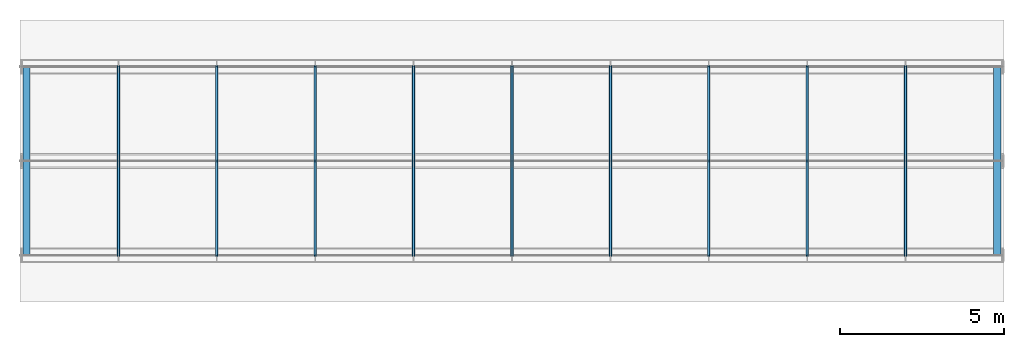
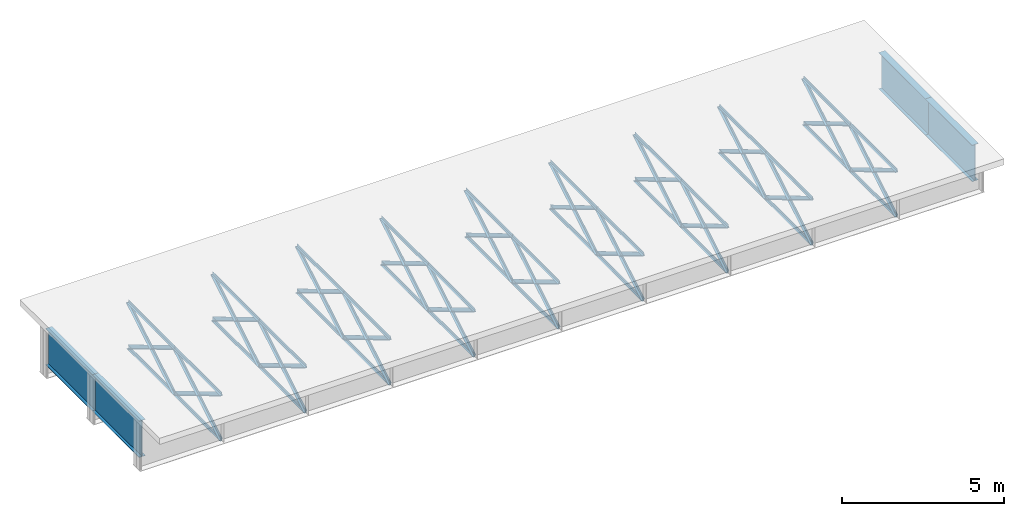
# One storey, part 1 of 10: 76 members.
"""IFC4 building model written with IfcOpenShell, lengths in metres."""

from ifc_helpers import new_model, si_unit, frame, origin, origin_with_axes, origin_2d_with_axis, place, context, subcontext, project, spatial, i_section, l_section, extrude, element, save


model = new_model("IFC4")

# Units and contexts
model_context = context("Model", 3, precision=1e-05, world=origin())
body_context = subcontext(model_context, "Body", "Model", "MODEL_VIEW")
ifc_project = project(units=[si_unit("LENGTHUNIT", "METRE"), si_unit("AREAUNIT", "SQUARE_METRE"), si_unit("VOLUMEUNIT", "CUBIC_METRE"), si_unit("PLANEANGLEUNIT", "RADIAN")], contexts=[model_context])

# Site, building, storey
site_placement = place(None, origin_with_axes())
site = spatial("IfcSite", under=ifc_project, at=site_placement, Name="Default Site")
building_placement = place(site_placement, origin_with_axes())
building = spatial("IfcBuilding", under=site, at=building_placement, Name="Bridge Structure")
storey_placement = place(building_placement, origin_with_axes())
storey = spatial("IfcBuildingStorey", under=building, at=storey_placement, Name="Superstructure")

# Members
for number, where, z_axis, x_axis, name in (
    (1, (0.2, -2.875, 0.1715), (0.0, 1.0, 0.0), (-1.0, 0.0, 0.0), "End Diaphragm"),
    (2, (0.2, 0.0, 0.1715), (0.0, 1.0, 0.0), (-1.0, 0.0, 0.0), "End Diaphragm"),
):
    element("IfcMember", number, at=place(storey_placement, frame(where, z_axis=z_axis, x_axis=x_axis)), inside=storey, Name=name, context=body_context, shape_type="SweptSolid", body=[
        extrude(i_section(OverallWidth=0.225, OverallDepth=1.372, WebThickness=0.016, FlangeThickness=0.012, at=origin_2d_with_axis()), origin_with_axes(), (0.0, 0.0, 1.0), 2.875),
    ])
for number, where, z_axis, x_axis, name in (
    (3, (3.0, -2.875, 0.8575), (0.0, 0.8588079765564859, -0.5122976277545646), (-1.0, 0.0, 0.0), "Diagonal Brace"),
    (4, (3.0, -2.875, -0.8575), (0.0, 0.8588079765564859, 0.5122976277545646), (-1.0, 0.0, 0.0), "Diagonal Brace"),
):
    element("IfcMember", number, at=place(storey_placement, frame(where, z_axis=z_axis, x_axis=x_axis)), inside=storey, Name=name, context=body_context, shape_type="SweptSolid", body=[
        extrude(l_section(Depth=0.128, Width=0.085, Thickness=0.008, at=origin_2d_with_axis()), origin_with_axes(), (0.0, 0.0, 1.0), 3.3476633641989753),
    ])
for number, where, z_axis, x_axis, name in (
    (5, (3.0, -2.875, -0.8575), (0.0, 1.0, 0.0), (-1.0, 0.0, 0.0), "Bottom Chord"),
    (6, (3.0, -2.875, 0.8575), (0.0, 1.0, 0.0), (-1.0, 0.0, 0.0), "Top Chord"),
):
    element("IfcMember", number, at=place(storey_placement, frame(where, z_axis=z_axis, x_axis=x_axis)), inside=storey, Name=name, context=body_context, shape_type="SweptSolid", body=[
        extrude(l_section(Depth=0.111, Width=0.068, Thickness=0.008, at=origin_2d_with_axis()), origin_with_axes(), (0.0, 0.0, 1.0), 2.875),
    ])
for number, where, z_axis, x_axis, name in (
    (7, (3.0, 0.0, 0.8575), (0.0, 0.8588079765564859, -0.5122976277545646), (-1.0, 0.0, 0.0), "Diagonal Brace"),
    (8, (3.0, 0.0, -0.8575), (0.0, 0.8588079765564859, 0.5122976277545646), (-1.0, 0.0, 0.0), "Diagonal Brace"),
):
    element("IfcMember", number, at=place(storey_placement, frame(where, z_axis=z_axis, x_axis=x_axis)), inside=storey, Name=name, context=body_context, shape_type="SweptSolid", body=[
        extrude(l_section(Depth=0.128, Width=0.085, Thickness=0.008, at=origin_2d_with_axis()), origin_with_axes(), (0.0, 0.0, 1.0), 3.3476633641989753),
    ])
for number, where, z_axis, x_axis, name in (
    (9, (3.0, 0.0, -0.8575), (0.0, 1.0, 0.0), (-1.0, 0.0, 0.0), "Bottom Chord"),
    (10, (3.0, 0.0, 0.8575), (0.0, 1.0, 0.0), (-1.0, 0.0, 0.0), "Top Chord"),
):
    element("IfcMember", number, at=place(storey_placement, frame(where, z_axis=z_axis, x_axis=x_axis)), inside=storey, Name=name, context=body_context, shape_type="SweptSolid", body=[
        extrude(l_section(Depth=0.111, Width=0.068, Thickness=0.008, at=origin_2d_with_axis()), origin_with_axes(), (0.0, 0.0, 1.0), 2.875),
    ])
for number, where, z_axis, x_axis, name in (
    (11, (6.0, -2.875, 0.8575), (0.0, 0.8588079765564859, -0.5122976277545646), (-1.0, 0.0, 0.0), "Diagonal Brace"),
    (12, (6.0, -2.875, -0.8575), (0.0, 0.8588079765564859, 0.5122976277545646), (-1.0, 0.0, 0.0), "Diagonal Brace"),
):
    element("IfcMember", number, at=place(storey_placement, frame(where, z_axis=z_axis, x_axis=x_axis)), inside=storey, Name=name, context=body_context, shape_type="SweptSolid", body=[
        extrude(l_section(Depth=0.128, Width=0.085, Thickness=0.008, at=origin_2d_with_axis()), origin_with_axes(), (0.0, 0.0, 1.0), 3.3476633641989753),
    ])
for number, where, z_axis, x_axis, name in (
    (13, (6.0, -2.875, -0.8575), (0.0, 1.0, 0.0), (-1.0, 0.0, 0.0), "Bottom Chord"),
    (14, (6.0, -2.875, 0.8575), (0.0, 1.0, 0.0), (-1.0, 0.0, 0.0), "Top Chord"),
):
    element("IfcMember", number, at=place(storey_placement, frame(where, z_axis=z_axis, x_axis=x_axis)), inside=storey, Name=name, context=body_context, shape_type="SweptSolid", body=[
        extrude(l_section(Depth=0.111, Width=0.068, Thickness=0.008, at=origin_2d_with_axis()), origin_with_axes(), (0.0, 0.0, 1.0), 2.875),
    ])
for number, where, z_axis, x_axis, name in (
    (15, (6.0, 0.0, 0.8575), (0.0, 0.8588079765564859, -0.5122976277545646), (-1.0, 0.0, 0.0), "Diagonal Brace"),
    (16, (6.0, 0.0, -0.8575), (0.0, 0.8588079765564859, 0.5122976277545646), (-1.0, 0.0, 0.0), "Diagonal Brace"),
):
    element("IfcMember", number, at=place(storey_placement, frame(where, z_axis=z_axis, x_axis=x_axis)), inside=storey, Name=name, context=body_context, shape_type="SweptSolid", body=[
        extrude(l_section(Depth=0.128, Width=0.085, Thickness=0.008, at=origin_2d_with_axis()), origin_with_axes(), (0.0, 0.0, 1.0), 3.3476633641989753),
    ])
for number, where, z_axis, x_axis, name in (
    (17, (6.0, 0.0, -0.8575), (0.0, 1.0, 0.0), (-1.0, 0.0, 0.0), "Bottom Chord"),
    (18, (6.0, 0.0, 0.8575), (0.0, 1.0, 0.0), (-1.0, 0.0, 0.0), "Top Chord"),
):
    element("IfcMember", number, at=place(storey_placement, frame(where, z_axis=z_axis, x_axis=x_axis)), inside=storey, Name=name, context=body_context, shape_type="SweptSolid", body=[
        extrude(l_section(Depth=0.111, Width=0.068, Thickness=0.008, at=origin_2d_with_axis()), origin_with_axes(), (0.0, 0.0, 1.0), 2.875),
    ])
for number, where, z_axis, x_axis, name in (
    (19, (9.0, -2.875, 0.8575), (0.0, 0.8588079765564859, -0.5122976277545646), (-1.0, 0.0, 0.0), "Diagonal Brace"),
    (20, (9.0, -2.875, -0.8575), (0.0, 0.8588079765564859, 0.5122976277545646), (-1.0, 0.0, 0.0), "Diagonal Brace"),
):
    element("IfcMember", number, at=place(storey_placement, frame(where, z_axis=z_axis, x_axis=x_axis)), inside=storey, Name=name, context=body_context, shape_type="SweptSolid", body=[
        extrude(l_section(Depth=0.128, Width=0.085, Thickness=0.008, at=origin_2d_with_axis()), origin_with_axes(), (0.0, 0.0, 1.0), 3.3476633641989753),
    ])
for number, where, z_axis, x_axis, name in (
    (21, (9.0, -2.875, -0.8575), (0.0, 1.0, 0.0), (-1.0, 0.0, 0.0), "Bottom Chord"),
    (22, (9.0, -2.875, 0.8575), (0.0, 1.0, 0.0), (-1.0, 0.0, 0.0), "Top Chord"),
):
    element("IfcMember", number, at=place(storey_placement, frame(where, z_axis=z_axis, x_axis=x_axis)), inside=storey, Name=name, context=body_context, shape_type="SweptSolid", body=[
        extrude(l_section(Depth=0.111, Width=0.068, Thickness=0.008, at=origin_2d_with_axis()), origin_with_axes(), (0.0, 0.0, 1.0), 2.875),
    ])
for number, where, z_axis, x_axis, name in (
    (23, (9.0, 0.0, 0.8575), (0.0, 0.8588079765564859, -0.5122976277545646), (-1.0, 0.0, 0.0), "Diagonal Brace"),
    (24, (9.0, 0.0, -0.8575), (0.0, 0.8588079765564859, 0.5122976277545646), (-1.0, 0.0, 0.0), "Diagonal Brace"),
):
    element("IfcMember", number, at=place(storey_placement, frame(where, z_axis=z_axis, x_axis=x_axis)), inside=storey, Name=name, context=body_context, shape_type="SweptSolid", body=[
        extrude(l_section(Depth=0.128, Width=0.085, Thickness=0.008, at=origin_2d_with_axis()), origin_with_axes(), (0.0, 0.0, 1.0), 3.3476633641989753),
    ])
for number, where, z_axis, x_axis, name in (
    (25, (9.0, 0.0, -0.8575), (0.0, 1.0, 0.0), (-1.0, 0.0, 0.0), "Bottom Chord"),
    (26, (9.0, 0.0, 0.8575), (0.0, 1.0, 0.0), (-1.0, 0.0, 0.0), "Top Chord"),
):
    element("IfcMember", number, at=place(storey_placement, frame(where, z_axis=z_axis, x_axis=x_axis)), inside=storey, Name=name, context=body_context, shape_type="SweptSolid", body=[
        extrude(l_section(Depth=0.111, Width=0.068, Thickness=0.008, at=origin_2d_with_axis()), origin_with_axes(), (0.0, 0.0, 1.0), 2.875),
    ])
for number, where, z_axis, x_axis, name in (
    (27, (12.0, -2.875, 0.8575), (0.0, 0.8588079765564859, -0.5122976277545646), (-1.0, 0.0, 0.0), "Diagonal Brace"),
    (28, (12.0, -2.875, -0.8575), (0.0, 0.8588079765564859, 0.5122976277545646), (-1.0, 0.0, 0.0), "Diagonal Brace"),
):
    element("IfcMember", number, at=place(storey_placement, frame(where, z_axis=z_axis, x_axis=x_axis)), inside=storey, Name=name, context=body_context, shape_type="SweptSolid", body=[
        extrude(l_section(Depth=0.128, Width=0.085, Thickness=0.008, at=origin_2d_with_axis()), origin_with_axes(), (0.0, 0.0, 1.0), 3.3476633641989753),
    ])
for number, where, z_axis, x_axis, name in (
    (29, (12.0, -2.875, -0.8575), (0.0, 1.0, 0.0), (-1.0, 0.0, 0.0), "Bottom Chord"),
    (30, (12.0, -2.875, 0.8575), (0.0, 1.0, 0.0), (-1.0, 0.0, 0.0), "Top Chord"),
):
    element("IfcMember", number, at=place(storey_placement, frame(where, z_axis=z_axis, x_axis=x_axis)), inside=storey, Name=name, context=body_context, shape_type="SweptSolid", body=[
        extrude(l_section(Depth=0.111, Width=0.068, Thickness=0.008, at=origin_2d_with_axis()), origin_with_axes(), (0.0, 0.0, 1.0), 2.875),
    ])
for number, where, z_axis, x_axis, name in (
    (31, (12.0, 0.0, 0.8575), (0.0, 0.8588079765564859, -0.5122976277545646), (-1.0, 0.0, 0.0), "Diagonal Brace"),
    (32, (12.0, 0.0, -0.8575), (0.0, 0.8588079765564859, 0.5122976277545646), (-1.0, 0.0, 0.0), "Diagonal Brace"),
):
    element("IfcMember", number, at=place(storey_placement, frame(where, z_axis=z_axis, x_axis=x_axis)), inside=storey, Name=name, context=body_context, shape_type="SweptSolid", body=[
        extrude(l_section(Depth=0.128, Width=0.085, Thickness=0.008, at=origin_2d_with_axis()), origin_with_axes(), (0.0, 0.0, 1.0), 3.3476633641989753),
    ])
for number, where, z_axis, x_axis, name in (
    (33, (12.0, 0.0, -0.8575), (0.0, 1.0, 0.0), (-1.0, 0.0, 0.0), "Bottom Chord"),
    (34, (12.0, 0.0, 0.8575), (0.0, 1.0, 0.0), (-1.0, 0.0, 0.0), "Top Chord"),
):
    element("IfcMember", number, at=place(storey_placement, frame(where, z_axis=z_axis, x_axis=x_axis)), inside=storey, Name=name, context=body_context, shape_type="SweptSolid", body=[
        extrude(l_section(Depth=0.111, Width=0.068, Thickness=0.008, at=origin_2d_with_axis()), origin_with_axes(), (0.0, 0.0, 1.0), 2.875),
    ])
for number, where, z_axis, x_axis, name in (
    (35, (15.0, -2.875, 0.8575), (0.0, 0.8588079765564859, -0.5122976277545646), (-1.0, 0.0, 0.0), "Diagonal Brace"),
    (36, (15.0, -2.875, -0.8575), (0.0, 0.8588079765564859, 0.5122976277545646), (-1.0, 0.0, 0.0), "Diagonal Brace"),
):
    element("IfcMember", number, at=place(storey_placement, frame(where, z_axis=z_axis, x_axis=x_axis)), inside=storey, Name=name, context=body_context, shape_type="SweptSolid", body=[
        extrude(l_section(Depth=0.128, Width=0.085, Thickness=0.008, at=origin_2d_with_axis()), origin_with_axes(), (0.0, 0.0, 1.0), 3.3476633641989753),
    ])
for number, where, z_axis, x_axis, name in (
    (37, (15.0, -2.875, -0.8575), (0.0, 1.0, 0.0), (-1.0, 0.0, 0.0), "Bottom Chord"),
    (38, (15.0, -2.875, 0.8575), (0.0, 1.0, 0.0), (-1.0, 0.0, 0.0), "Top Chord"),
):
    element("IfcMember", number, at=place(storey_placement, frame(where, z_axis=z_axis, x_axis=x_axis)), inside=storey, Name=name, context=body_context, shape_type="SweptSolid", body=[
        extrude(l_section(Depth=0.111, Width=0.068, Thickness=0.008, at=origin_2d_with_axis()), origin_with_axes(), (0.0, 0.0, 1.0), 2.875),
    ])
for number, where, z_axis, x_axis, name in (
    (39, (15.0, 0.0, 0.8575), (0.0, 0.8588079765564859, -0.5122976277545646), (-1.0, 0.0, 0.0), "Diagonal Brace"),
    (40, (15.0, 0.0, -0.8575), (0.0, 0.8588079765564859, 0.5122976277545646), (-1.0, 0.0, 0.0), "Diagonal Brace"),
):
    element("IfcMember", number, at=place(storey_placement, frame(where, z_axis=z_axis, x_axis=x_axis)), inside=storey, Name=name, context=body_context, shape_type="SweptSolid", body=[
        extrude(l_section(Depth=0.128, Width=0.085, Thickness=0.008, at=origin_2d_with_axis()), origin_with_axes(), (0.0, 0.0, 1.0), 3.3476633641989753),
    ])
for number, where, z_axis, x_axis, name in (
    (41, (15.0, 0.0, -0.8575), (0.0, 1.0, 0.0), (-1.0, 0.0, 0.0), "Bottom Chord"),
    (42, (15.0, 0.0, 0.8575), (0.0, 1.0, 0.0), (-1.0, 0.0, 0.0), "Top Chord"),
):
    element("IfcMember", number, at=place(storey_placement, frame(where, z_axis=z_axis, x_axis=x_axis)), inside=storey, Name=name, context=body_context, shape_type="SweptSolid", body=[
        extrude(l_section(Depth=0.111, Width=0.068, Thickness=0.008, at=origin_2d_with_axis()), origin_with_axes(), (0.0, 0.0, 1.0), 2.875),
    ])
for number, where, z_axis, x_axis, name in (
    (43, (18.0, -2.875, 0.8575), (0.0, 0.8588079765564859, -0.5122976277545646), (-1.0, 0.0, 0.0), "Diagonal Brace"),
    (44, (18.0, -2.875, -0.8575), (0.0, 0.8588079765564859, 0.5122976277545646), (-1.0, 0.0, 0.0), "Diagonal Brace"),
):
    element("IfcMember", number, at=place(storey_placement, frame(where, z_axis=z_axis, x_axis=x_axis)), inside=storey, Name=name, context=body_context, shape_type="SweptSolid", body=[
        extrude(l_section(Depth=0.128, Width=0.085, Thickness=0.008, at=origin_2d_with_axis()), origin_with_axes(), (0.0, 0.0, 1.0), 3.3476633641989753),
    ])
for number, where, z_axis, x_axis, name in (
    (45, (18.0, -2.875, -0.8575), (0.0, 1.0, 0.0), (-1.0, 0.0, 0.0), "Bottom Chord"),
    (46, (18.0, -2.875, 0.8575), (0.0, 1.0, 0.0), (-1.0, 0.0, 0.0), "Top Chord"),
):
    element("IfcMember", number, at=place(storey_placement, frame(where, z_axis=z_axis, x_axis=x_axis)), inside=storey, Name=name, context=body_context, shape_type="SweptSolid", body=[
        extrude(l_section(Depth=0.111, Width=0.068, Thickness=0.008, at=origin_2d_with_axis()), origin_with_axes(), (0.0, 0.0, 1.0), 2.875),
    ])
for number, where, z_axis, x_axis, name in (
    (47, (18.0, 0.0, 0.8575), (0.0, 0.8588079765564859, -0.5122976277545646), (-1.0, 0.0, 0.0), "Diagonal Brace"),
    (48, (18.0, 0.0, -0.8575), (0.0, 0.8588079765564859, 0.5122976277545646), (-1.0, 0.0, 0.0), "Diagonal Brace"),
):
    element("IfcMember", number, at=place(storey_placement, frame(where, z_axis=z_axis, x_axis=x_axis)), inside=storey, Name=name, context=body_context, shape_type="SweptSolid", body=[
        extrude(l_section(Depth=0.128, Width=0.085, Thickness=0.008, at=origin_2d_with_axis()), origin_with_axes(), (0.0, 0.0, 1.0), 3.3476633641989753),
    ])
for number, where, z_axis, x_axis, name in (
    (49, (18.0, 0.0, -0.8575), (0.0, 1.0, 0.0), (-1.0, 0.0, 0.0), "Bottom Chord"),
    (50, (18.0, 0.0, 0.8575), (0.0, 1.0, 0.0), (-1.0, 0.0, 0.0), "Top Chord"),
):
    element("IfcMember", number, at=place(storey_placement, frame(where, z_axis=z_axis, x_axis=x_axis)), inside=storey, Name=name, context=body_context, shape_type="SweptSolid", body=[
        extrude(l_section(Depth=0.111, Width=0.068, Thickness=0.008, at=origin_2d_with_axis()), origin_with_axes(), (0.0, 0.0, 1.0), 2.875),
    ])
for number, where, z_axis, x_axis, name in (
    (51, (21.0, -2.875, 0.8575), (0.0, 0.8588079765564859, -0.5122976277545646), (-1.0, 0.0, 0.0), "Diagonal Brace"),
    (52, (21.0, -2.875, -0.8575), (0.0, 0.8588079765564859, 0.5122976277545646), (-1.0, 0.0, 0.0), "Diagonal Brace"),
):
    element("IfcMember", number, at=place(storey_placement, frame(where, z_axis=z_axis, x_axis=x_axis)), inside=storey, Name=name, context=body_context, shape_type="SweptSolid", body=[
        extrude(l_section(Depth=0.128, Width=0.085, Thickness=0.008, at=origin_2d_with_axis()), origin_with_axes(), (0.0, 0.0, 1.0), 3.3476633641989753),
    ])
for number, where, z_axis, x_axis, name in (
    (53, (21.0, -2.875, -0.8575), (0.0, 1.0, 0.0), (-1.0, 0.0, 0.0), "Bottom Chord"),
    (54, (21.0, -2.875, 0.8575), (0.0, 1.0, 0.0), (-1.0, 0.0, 0.0), "Top Chord"),
):
    element("IfcMember", number, at=place(storey_placement, frame(where, z_axis=z_axis, x_axis=x_axis)), inside=storey, Name=name, context=body_context, shape_type="SweptSolid", body=[
        extrude(l_section(Depth=0.111, Width=0.068, Thickness=0.008, at=origin_2d_with_axis()), origin_with_axes(), (0.0, 0.0, 1.0), 2.875),
    ])
for number, where, z_axis, x_axis, name in (
    (55, (21.0, 0.0, 0.8575), (0.0, 0.8588079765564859, -0.5122976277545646), (-1.0, 0.0, 0.0), "Diagonal Brace"),
    (56, (21.0, 0.0, -0.8575), (0.0, 0.8588079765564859, 0.5122976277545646), (-1.0, 0.0, 0.0), "Diagonal Brace"),
):
    element("IfcMember", number, at=place(storey_placement, frame(where, z_axis=z_axis, x_axis=x_axis)), inside=storey, Name=name, context=body_context, shape_type="SweptSolid", body=[
        extrude(l_section(Depth=0.128, Width=0.085, Thickness=0.008, at=origin_2d_with_axis()), origin_with_axes(), (0.0, 0.0, 1.0), 3.3476633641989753),
    ])
for number, where, z_axis, x_axis, name in (
    (57, (21.0, 0.0, -0.8575), (0.0, 1.0, 0.0), (-1.0, 0.0, 0.0), "Bottom Chord"),
    (58, (21.0, 0.0, 0.8575), (0.0, 1.0, 0.0), (-1.0, 0.0, 0.0), "Top Chord"),
):
    element("IfcMember", number, at=place(storey_placement, frame(where, z_axis=z_axis, x_axis=x_axis)), inside=storey, Name=name, context=body_context, shape_type="SweptSolid", body=[
        extrude(l_section(Depth=0.111, Width=0.068, Thickness=0.008, at=origin_2d_with_axis()), origin_with_axes(), (0.0, 0.0, 1.0), 2.875),
    ])
for number, where, z_axis, x_axis, name in (
    (59, (24.0, -2.875, 0.8575), (0.0, 0.8588079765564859, -0.5122976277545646), (-1.0, 0.0, 0.0), "Diagonal Brace"),
    (60, (24.0, -2.875, -0.8575), (0.0, 0.8588079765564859, 0.5122976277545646), (-1.0, 0.0, 0.0), "Diagonal Brace"),
):
    element("IfcMember", number, at=place(storey_placement, frame(where, z_axis=z_axis, x_axis=x_axis)), inside=storey, Name=name, context=body_context, shape_type="SweptSolid", body=[
        extrude(l_section(Depth=0.128, Width=0.085, Thickness=0.008, at=origin_2d_with_axis()), origin_with_axes(), (0.0, 0.0, 1.0), 3.3476633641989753),
    ])
for number, where, z_axis, x_axis, name in (
    (61, (24.0, -2.875, -0.8575), (0.0, 1.0, 0.0), (-1.0, 0.0, 0.0), "Bottom Chord"),
    (62, (24.0, -2.875, 0.8575), (0.0, 1.0, 0.0), (-1.0, 0.0, 0.0), "Top Chord"),
):
    element("IfcMember", number, at=place(storey_placement, frame(where, z_axis=z_axis, x_axis=x_axis)), inside=storey, Name=name, context=body_context, shape_type="SweptSolid", body=[
        extrude(l_section(Depth=0.111, Width=0.068, Thickness=0.008, at=origin_2d_with_axis()), origin_with_axes(), (0.0, 0.0, 1.0), 2.875),
    ])
for number, where, z_axis, x_axis, name in (
    (63, (24.0, 0.0, 0.8575), (0.0, 0.8588079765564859, -0.5122976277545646), (-1.0, 0.0, 0.0), "Diagonal Brace"),
    (64, (24.0, 0.0, -0.8575), (0.0, 0.8588079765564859, 0.5122976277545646), (-1.0, 0.0, 0.0), "Diagonal Brace"),
):
    element("IfcMember", number, at=place(storey_placement, frame(where, z_axis=z_axis, x_axis=x_axis)), inside=storey, Name=name, context=body_context, shape_type="SweptSolid", body=[
        extrude(l_section(Depth=0.128, Width=0.085, Thickness=0.008, at=origin_2d_with_axis()), origin_with_axes(), (0.0, 0.0, 1.0), 3.3476633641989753),
    ])
for number, where, z_axis, x_axis, name in (
    (65, (24.0, 0.0, -0.8575), (0.0, 1.0, 0.0), (-1.0, 0.0, 0.0), "Bottom Chord"),
    (66, (24.0, 0.0, 0.8575), (0.0, 1.0, 0.0), (-1.0, 0.0, 0.0), "Top Chord"),
):
    element("IfcMember", number, at=place(storey_placement, frame(where, z_axis=z_axis, x_axis=x_axis)), inside=storey, Name=name, context=body_context, shape_type="SweptSolid", body=[
        extrude(l_section(Depth=0.111, Width=0.068, Thickness=0.008, at=origin_2d_with_axis()), origin_with_axes(), (0.0, 0.0, 1.0), 2.875),
    ])
for number, where, z_axis, x_axis, name in (
    (67, (27.0, -2.875, 0.8575), (0.0, 0.8588079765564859, -0.5122976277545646), (-1.0, 0.0, 0.0), "Diagonal Brace"),
    (68, (27.0, -2.875, -0.8575), (0.0, 0.8588079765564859, 0.5122976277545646), (-1.0, 0.0, 0.0), "Diagonal Brace"),
):
    element("IfcMember", number, at=place(storey_placement, frame(where, z_axis=z_axis, x_axis=x_axis)), inside=storey, Name=name, context=body_context, shape_type="SweptSolid", body=[
        extrude(l_section(Depth=0.128, Width=0.085, Thickness=0.008, at=origin_2d_with_axis()), origin_with_axes(), (0.0, 0.0, 1.0), 3.3476633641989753),
    ])
for number, where, z_axis, x_axis, name in (
    (69, (27.0, -2.875, -0.8575), (0.0, 1.0, 0.0), (-1.0, 0.0, 0.0), "Bottom Chord"),
    (70, (27.0, -2.875, 0.8575), (0.0, 1.0, 0.0), (-1.0, 0.0, 0.0), "Top Chord"),
):
    element("IfcMember", number, at=place(storey_placement, frame(where, z_axis=z_axis, x_axis=x_axis)), inside=storey, Name=name, context=body_context, shape_type="SweptSolid", body=[
        extrude(l_section(Depth=0.111, Width=0.068, Thickness=0.008, at=origin_2d_with_axis()), origin_with_axes(), (0.0, 0.0, 1.0), 2.875),
    ])
for number, where, z_axis, x_axis, name in (
    (71, (27.0, 0.0, 0.8575), (0.0, 0.8588079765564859, -0.5122976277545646), (-1.0, 0.0, 0.0), "Diagonal Brace"),
    (72, (27.0, 0.0, -0.8575), (0.0, 0.8588079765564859, 0.5122976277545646), (-1.0, 0.0, 0.0), "Diagonal Brace"),
):
    element("IfcMember", number, at=place(storey_placement, frame(where, z_axis=z_axis, x_axis=x_axis)), inside=storey, Name=name, context=body_context, shape_type="SweptSolid", body=[
        extrude(l_section(Depth=0.128, Width=0.085, Thickness=0.008, at=origin_2d_with_axis()), origin_with_axes(), (0.0, 0.0, 1.0), 3.3476633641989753),
    ])
for number, where, z_axis, x_axis, name in (
    (73, (27.0, 0.0, -0.8575), (0.0, 1.0, 0.0), (-1.0, 0.0, 0.0), "Bottom Chord"),
    (74, (27.0, 0.0, 0.8575), (0.0, 1.0, 0.0), (-1.0, 0.0, 0.0), "Top Chord"),
):
    element("IfcMember", number, at=place(storey_placement, frame(where, z_axis=z_axis, x_axis=x_axis)), inside=storey, Name=name, context=body_context, shape_type="SweptSolid", body=[
        extrude(l_section(Depth=0.111, Width=0.068, Thickness=0.008, at=origin_2d_with_axis()), origin_with_axes(), (0.0, 0.0, 1.0), 2.875),
    ])
for number, where, z_axis, x_axis, name in (
    (75, (29.8, -2.875, 0.1715), (0.0, 1.0, 0.0), (-1.0, 0.0, 0.0), "End Diaphragm"),
    (76, (29.8, 0.0, 0.1715), (0.0, 1.0, 0.0), (-1.0, 0.0, 0.0), "End Diaphragm"),
):
    element("IfcMember", number, at=place(storey_placement, frame(where, z_axis=z_axis, x_axis=x_axis)), inside=storey, Name=name, context=body_context, shape_type="SweptSolid", body=[
        extrude(i_section(OverallWidth=0.225, OverallDepth=1.372, WebThickness=0.016, FlangeThickness=0.012, at=origin_2d_with_axis()), origin_with_axes(), (0.0, 0.0, 1.0), 2.875),
    ])

save(model, "model.ifc")
